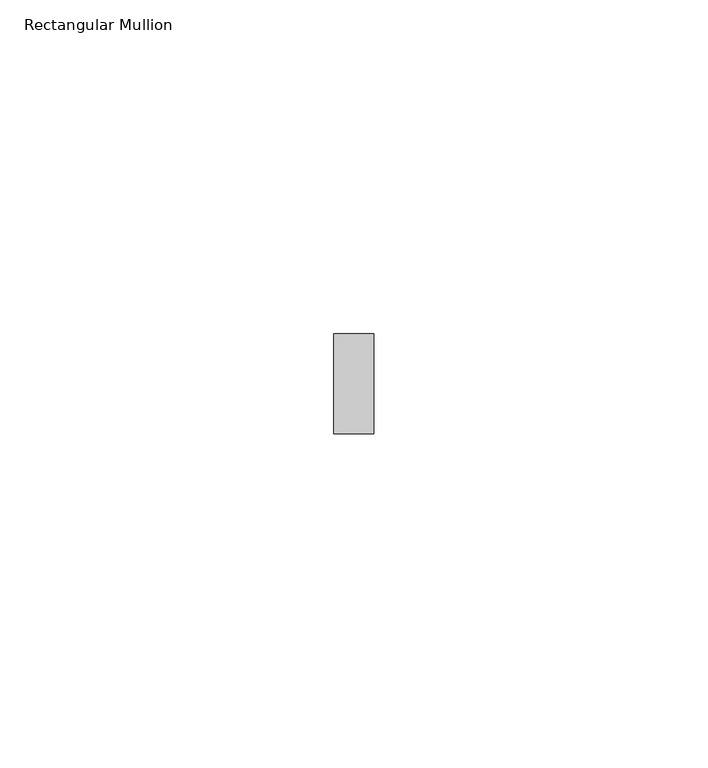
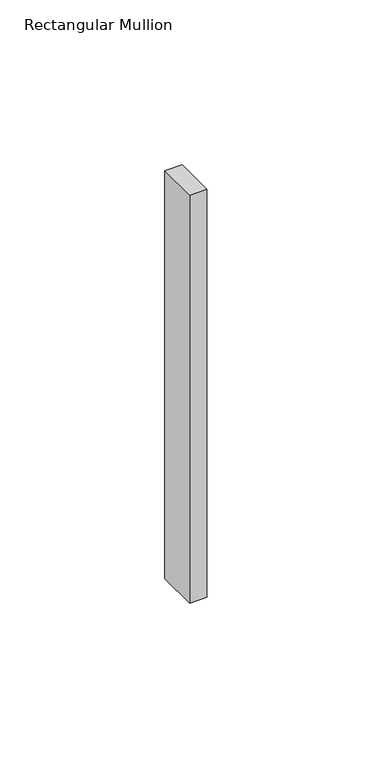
"""IFC4 building model written with IfcOpenShell, lengths in millimetres: member geometry, Rectangular Mullion : ARQ_HERR_15X6mm."""

from ifc_helpers import new_model, si_unit, frame, origin, place, context, project, spatial, polyline, outline, extrude, source, transform, mapped, element, save


def rectangular_mullion_363bff1e(model_context):
    return source(origin(), model_context, "Body", "SweptSolid", [
        extrude(outline(polyline([(3.0, 7.5), (3.0, -7.5), (-3.0, -7.5), (-3.0, 7.5), (3.0, 7.5)])), frame((0.0, 0.0, -151.0338449), z_axis=(0.0, 0.0, 1.0), x_axis=(1.0, 0.0, 0.0)), (0.0, 0.0, 1.0), 151.0338449),
    ])


if __name__ == "__main__":
    model = new_model("IFC4")
    model_context = context("Model", 3, world=origin())
    ifc_project = project(units=[si_unit("LENGTHUNIT", "METRE", prefix="MILLI")], contexts=[model_context])
    site = spatial("IfcSite", under=ifc_project)
    building = spatial("IfcBuilding", under=site)
    placement = place(None, origin())
    rectangular_mullion_shape = rectangular_mullion_363bff1e(model_context)
    element("IfcMember", 1, ObjectType="Rectangular Mullion : ARQ_HERR_15X6mm", at=placement, inside=building, context=model_context, shape_type="MappedRepresentation", body=[
        mapped(rectangular_mullion_shape, transform((0.0, 0.0, 0.0), x_axis=(1.0, 0.0, 0.0), y_axis=(0.0, 1.0, 0.0), z_axis=(0.0, 0.0, 1.0))),
    ])
    save(model, "model.ifc")
